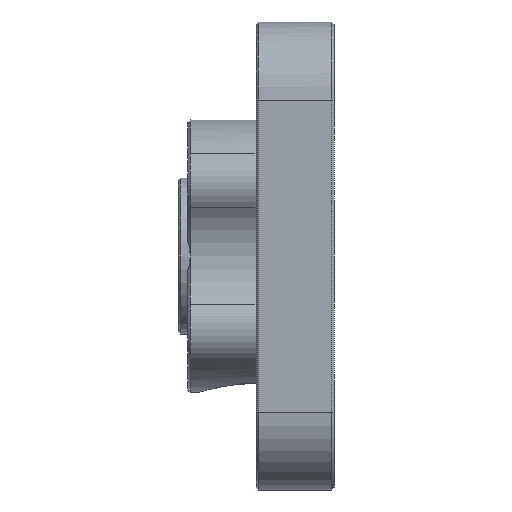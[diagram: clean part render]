
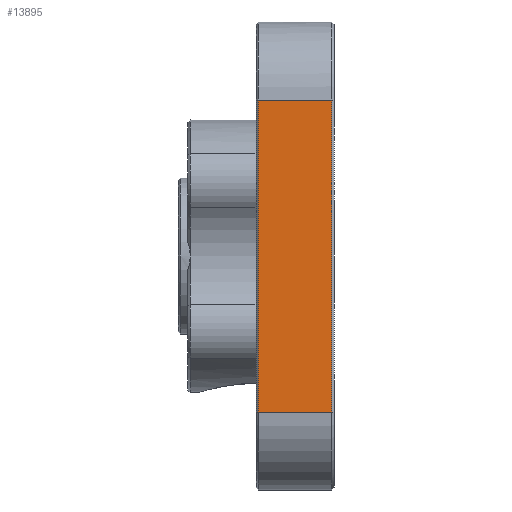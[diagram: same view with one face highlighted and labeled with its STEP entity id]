
A CAD part, left-side view. The second image highlights one B-rep face of the part: STEP entity #13895.
In plain terms, the highlighted planar face has unit normal (-1, 0, 0).
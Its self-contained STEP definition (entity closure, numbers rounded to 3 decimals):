
#96 = ORIENTED_EDGE ( 'NONE', *, *, #21414, .T. ) ;
#832 = EDGE_CURVE ( 'NONE', #19411, #3415, #18260, .T. ) ;
#3300 = CARTESIAN_POINT ( 'NONE',  ( -12., 3.875, 0. ) ) ;
#3415 = VERTEX_POINT ( 'NONE', #30724 ) ;
#3618 = PLANE ( 'NONE',  #25124 ) ;
#4104 = DIRECTION ( 'NONE',  ( 0., 0., 1. ) ) ;
#4530 = DIRECTION ( 'NONE',  ( -1., 0., 0. ) ) ;
#6162 = CARTESIAN_POINT ( 'NONE',  ( -12., 3.875, 8. ) ) ;
#6181 = LINE ( 'NONE', #9586, #11634 ) ;
#7034 = VERTEX_POINT ( 'NONE', #19860 ) ;
#7903 = DIRECTION ( 'NONE',  ( 0., 0., -1. ) ) ;
#8643 = EDGE_CURVE ( 'NONE', #7034, #19029, #31235, .T. ) ;
#9027 = CARTESIAN_POINT ( 'NONE',  ( -12., 4., 0. ) ) ;
#9586 = CARTESIAN_POINT ( 'NONE',  ( -12., 0.125, 8. ) ) ;
#10861 = ORIENTED_EDGE ( 'NONE', *, *, #21367, .T. ) ;
#11634 = VECTOR ( 'NONE', #26431, 1000. ) ;
#13072 = ORIENTED_EDGE ( 'NONE', *, *, #8643, .T. ) ;
#13814 = LINE ( 'NONE', #3300, #30017 ) ;
#13895 = ADVANCED_FACE ( 'NONE', ( #29645 ), #3618, .T. ) ;
#16141 = VECTOR ( 'NONE', #24622, 1000. ) ;
#16987 = CARTESIAN_POINT ( 'NONE',  ( -12., 0.125, -8. ) ) ;
#17137 = VECTOR ( 'NONE', #24367, 1000. ) ;
#18260 = LINE ( 'NONE', #28874, #17137 ) ;
#19029 = VERTEX_POINT ( 'NONE', #16987 ) ;
#19411 = VERTEX_POINT ( 'NONE', #6162 ) ;
#19860 = CARTESIAN_POINT ( 'NONE',  ( -12., 3.875, -8. ) ) ;
#21367 = EDGE_CURVE ( 'NONE', #19029, #3415, #6181, .T. ) ;
#21414 = EDGE_CURVE ( 'NONE', #19411, #7034, #13814, .T. ) ;
#22870 = ORIENTED_EDGE ( 'NONE', *, *, #832, .F. ) ;
#23646 = EDGE_LOOP ( 'NONE', ( #22870, #96, #13072, #10861 ) ) ;
#24367 = DIRECTION ( 'NONE',  ( 0., -1., 0. ) ) ;
#24622 = DIRECTION ( 'NONE',  ( 0., -1., 0. ) ) ;
#25124 = AXIS2_PLACEMENT_3D ( 'NONE', #9027, #4530, #4104 ) ;
#26431 = DIRECTION ( 'NONE',  ( 0., 0., 1. ) ) ;
#28874 = CARTESIAN_POINT ( 'NONE',  ( -12., 4., 8. ) ) ;
#29241 = CARTESIAN_POINT ( 'NONE',  ( -12., 4., -8. ) ) ;
#29645 = FACE_OUTER_BOUND ( 'NONE', #23646, .T. ) ;
#30017 = VECTOR ( 'NONE', #7903, 1000. ) ;
#30724 = CARTESIAN_POINT ( 'NONE',  ( -12., 0.125, 8. ) ) ;
#31235 = LINE ( 'NONE', #29241, #16141 ) ;
